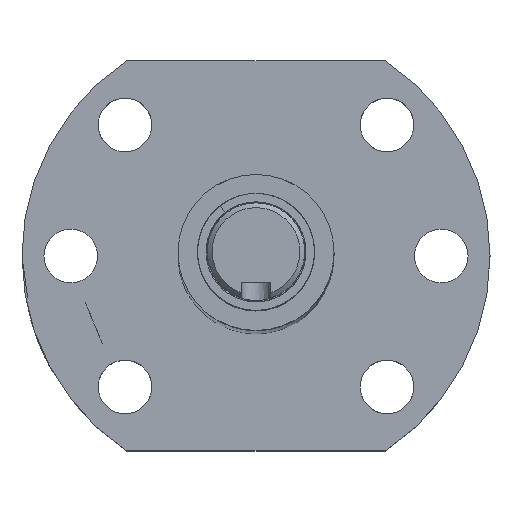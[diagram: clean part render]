
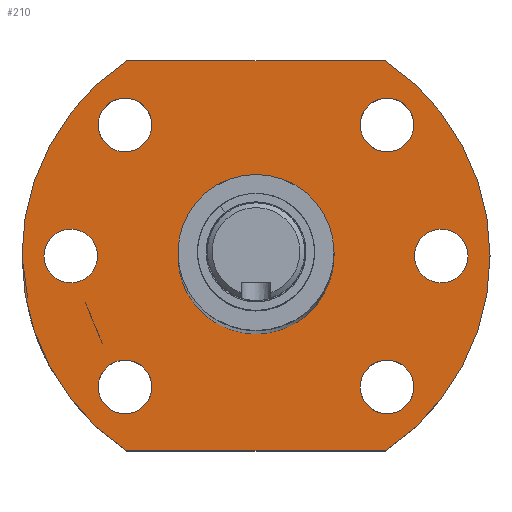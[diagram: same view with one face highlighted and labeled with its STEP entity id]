
A CAD part, top view. The second image highlights one B-rep face of the part: STEP entity #210.
In plain terms, the highlighted planar face has unit normal (0, 0, 1).
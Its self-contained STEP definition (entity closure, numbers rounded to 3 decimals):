
#137=FACE_BOUND('',#317,.T.);
#138=FACE_BOUND('',#318,.T.);
#139=FACE_BOUND('',#319,.T.);
#140=FACE_BOUND('',#320,.T.);
#141=FACE_BOUND('',#321,.T.);
#142=FACE_BOUND('',#322,.T.);
#143=FACE_BOUND('',#323,.T.);
#144=FACE_BOUND('',#324,.T.);
#210=ADVANCED_FACE('',(#137,#138,#139,#140,#141,#142,#143,#144),#246,.T.);
#246=PLANE('',#843);
#317=EDGE_LOOP('',(#512));
#318=EDGE_LOOP('',(#513));
#319=EDGE_LOOP('',(#514));
#320=EDGE_LOOP('',(#515));
#321=EDGE_LOOP('',(#516));
#322=EDGE_LOOP('',(#517));
#323=EDGE_LOOP('',(#518,#519,#520,#521));
#324=EDGE_LOOP('',(#522));
#384=CIRCLE('',#834,2.75);
#385=CIRCLE('',#835,2.75);
#386=CIRCLE('',#836,2.75);
#387=CIRCLE('',#837,2.75);
#388=CIRCLE('',#838,2.75);
#389=CIRCLE('',#839,2.75);
#390=CIRCLE('',#840,24.);
#391=CIRCLE('',#841,24.);
#392=CIRCLE('',#842,8.);
#512=ORIENTED_EDGE('',*,*,#696,.F.);
#513=ORIENTED_EDGE('',*,*,#697,.F.);
#514=ORIENTED_EDGE('',*,*,#698,.F.);
#515=ORIENTED_EDGE('',*,*,#699,.T.);
#516=ORIENTED_EDGE('',*,*,#700,.T.);
#517=ORIENTED_EDGE('',*,*,#701,.T.);
#518=ORIENTED_EDGE('',*,*,#702,.F.);
#519=ORIENTED_EDGE('',*,*,#703,.F.);
#520=ORIENTED_EDGE('',*,*,#704,.T.);
#521=ORIENTED_EDGE('',*,*,#705,.F.);
#522=ORIENTED_EDGE('',*,*,#706,.T.);
#615=VERTEX_POINT('',#2309);
#616=VERTEX_POINT('',#2311);
#617=VERTEX_POINT('',#2313);
#618=VERTEX_POINT('',#2315);
#619=VERTEX_POINT('',#2317);
#620=VERTEX_POINT('',#2319);
#621=VERTEX_POINT('',#2321);
#622=VERTEX_POINT('',#2322);
#623=VERTEX_POINT('',#2324);
#624=VERTEX_POINT('',#2326);
#625=VERTEX_POINT('',#2329);
#696=EDGE_CURVE('',#615,#615,#384,.T.);
#697=EDGE_CURVE('',#616,#616,#385,.T.);
#698=EDGE_CURVE('',#617,#617,#386,.T.);
#699=EDGE_CURVE('',#618,#618,#387,.T.);
#700=EDGE_CURVE('',#619,#619,#388,.T.);
#701=EDGE_CURVE('',#620,#620,#389,.T.);
#702=EDGE_CURVE('',#621,#622,#748,.T.);
#703=EDGE_CURVE('',#623,#621,#390,.T.);
#704=EDGE_CURVE('',#623,#624,#749,.T.);
#705=EDGE_CURVE('',#622,#624,#391,.T.);
#706=EDGE_CURVE('',#625,#625,#392,.T.);
#748=LINE('',#2320,#776);
#749=LINE('',#2325,#777);
#776=VECTOR('',#1008,1.);
#777=VECTOR('',#1011,1.);
#834=AXIS2_PLACEMENT_3D('',#2308,#996,#997);
#835=AXIS2_PLACEMENT_3D('',#2310,#998,#999);
#836=AXIS2_PLACEMENT_3D('',#2312,#1000,#1001);
#837=AXIS2_PLACEMENT_3D('',#2314,#1002,#1003);
#838=AXIS2_PLACEMENT_3D('',#2316,#1004,#1005);
#839=AXIS2_PLACEMENT_3D('',#2318,#1006,#1007);
#840=AXIS2_PLACEMENT_3D('',#2323,#1009,#1010);
#841=AXIS2_PLACEMENT_3D('',#2327,#1012,#1013);
#842=AXIS2_PLACEMENT_3D('',#2328,#1014,#1015);
#843=AXIS2_PLACEMENT_3D('',#2330,#1016,#1017);
#996=DIRECTION('',(0.,0.,1.));
#997=DIRECTION('',(-0.707,-0.707,0.));
#998=DIRECTION('',(0.,0.,1.));
#999=DIRECTION('',(-0.707,0.707,0.));
#1000=DIRECTION('',(0.,0.,1.));
#1001=DIRECTION('',(-1.,0.,0.));
#1002=DIRECTION('',(0.,0.,-1.));
#1003=DIRECTION('',(1.,0.,0.));
#1004=DIRECTION('',(0.,0.,-1.));
#1005=DIRECTION('',(0.707,-0.707,0.));
#1006=DIRECTION('',(0.,0.,-1.));
#1007=DIRECTION('',(0.707,0.707,0.));
#1008=DIRECTION('',(1.,0.,0.));
#1009=DIRECTION('',(0.,0.,-1.));
#1010=DIRECTION('',(1.,0.,0.));
#1011=DIRECTION('',(1.,0.,0.));
#1012=DIRECTION('',(0.,0.,-1.));
#1013=DIRECTION('',(1.,0.,0.));
#1014=DIRECTION('',(0.,0.,-1.));
#1015=DIRECTION('',(1.,0.,0.));
#1016=DIRECTION('',(0.,0.,1.));
#1017=DIRECTION('',(-1.,0.,0.));
#2308=CARTESIAN_POINT('',(-13.435,-13.435,0.));
#2309=CARTESIAN_POINT('',(-15.38,-15.38,0.));
#2310=CARTESIAN_POINT('',(-13.435,13.435,0.));
#2311=CARTESIAN_POINT('',(-15.38,15.38,0.));
#2312=CARTESIAN_POINT('',(-19.,0.,0.));
#2313=CARTESIAN_POINT('',(-21.75,0.,0.));
#2314=CARTESIAN_POINT('',(19.,0.,0.));
#2315=CARTESIAN_POINT('',(21.75,0.,0.));
#2316=CARTESIAN_POINT('',(13.435,-13.435,0.));
#2317=CARTESIAN_POINT('',(15.38,-15.38,0.));
#2318=CARTESIAN_POINT('',(13.435,13.435,0.));
#2319=CARTESIAN_POINT('',(15.38,15.38,0.));
#2320=CARTESIAN_POINT('',(0.,20.,0.));
#2321=CARTESIAN_POINT('',(-13.266,20.,0.));
#2322=CARTESIAN_POINT('',(13.266,20.,0.));
#2323=CARTESIAN_POINT('',(0.,0.,0.));
#2324=CARTESIAN_POINT('',(-13.266,-20.,0.));
#2325=CARTESIAN_POINT('',(0.,-20.,0.));
#2326=CARTESIAN_POINT('',(13.266,-20.,0.));
#2327=CARTESIAN_POINT('',(0.,0.,0.));
#2328=CARTESIAN_POINT('',(0.,0.,0.));
#2329=CARTESIAN_POINT('',(8.,0.,0.));
#2330=CARTESIAN_POINT('',(0.,0.,0.));
